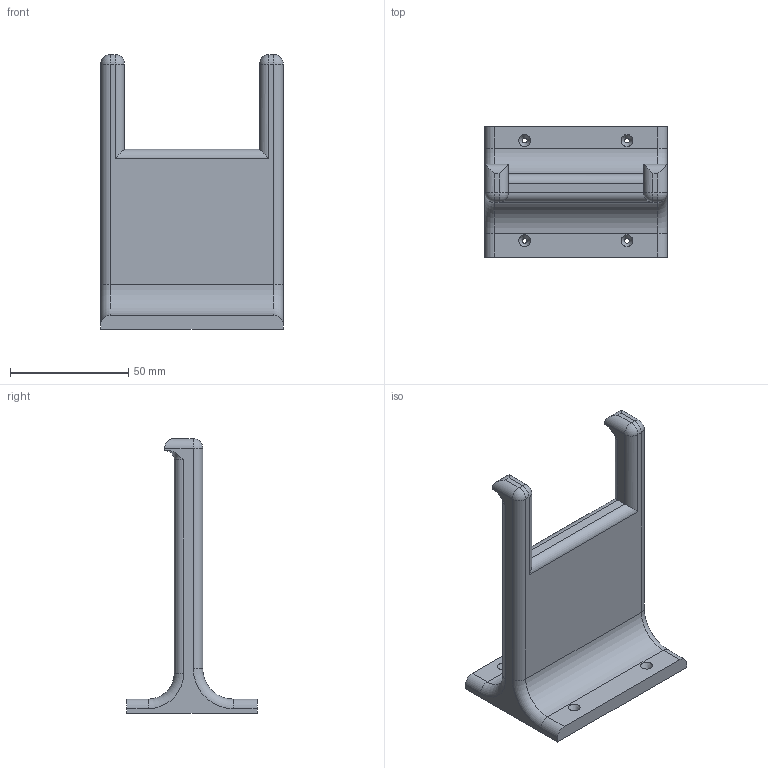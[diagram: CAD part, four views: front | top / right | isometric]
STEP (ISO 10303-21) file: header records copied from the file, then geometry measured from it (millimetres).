
FILE_DESCRIPTION(('STEP AP203'), '1');
FILE_NAME('ïîäâåñ äëÿ ãèòàðû íà ñòåíêó', '', ('UNSPECIFIED'), ('UNSPECIFIED'), 'ASCON STEP Converter 1.3', 'ASCON Math Kernel', '');
FILE_SCHEMA(('CONFIG_CONTROL_DESIGN'));
Length unit declared in the file: millimetre
Bounding box: 77 x 55 x 116 mm (x, y, z)
Volume: 101872.9 mm3; surface area: 24226.3 mm2
Topology: 1 solids, 1 shells, 66 faces, 156 edges, 88 vertices
Faces by surface type: cylinder 30, plane 20, torus 8, cone 4, sphere 4
Full cylindrical faces by diameter (mm): 2 x4
Entity records: 2536 total; most frequent: CARTESIAN_POINT 487, DIRECTION 322, ORIENTED_EDGE 288, EDGE_CURVE 144, AXIS2_PLACEMENT_3D 123, VERTEX_POINT 88, EDGE_LOOP 82, LINE 76
